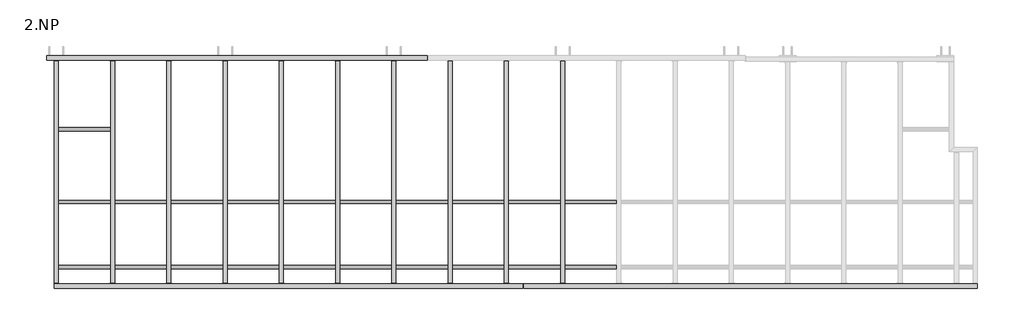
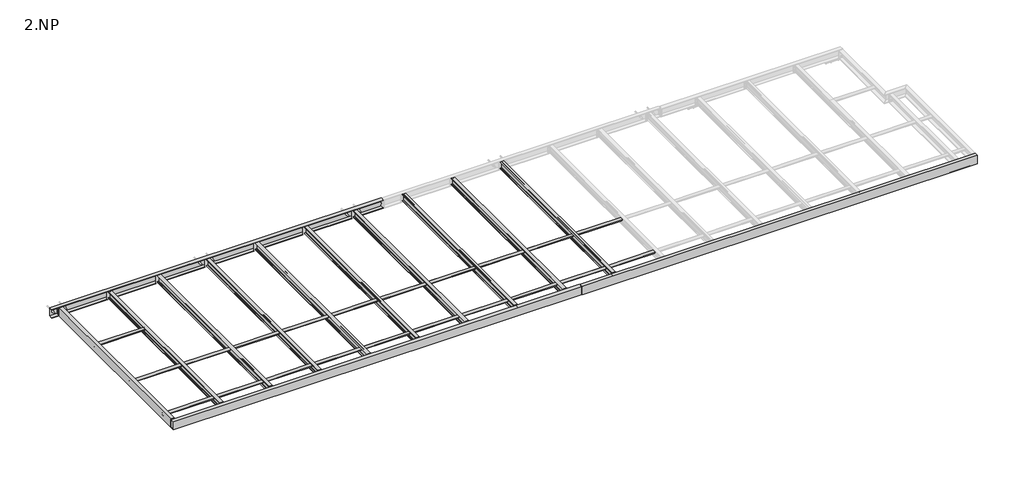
# One storey, part 1 of 18: 34 beams, 6 plates.
"""IFC4 building model written with IfcOpenShell, lengths in millimetres."""

from ifc_helpers import new_model, si_unit, point, frame, frame_2d, origin, place, context, project, spatial, polyline, circle_curve, trimmed, segment, composite_curve, outline, extrude, element, save

model = new_model("IFC4")

# Units and contexts
model_context = context("Model", 3, world=origin())
ifc_project = project(units=[si_unit("LENGTHUNIT", "METRE", prefix="MILLI")], contexts=[model_context])

# Site, building, storey
site = spatial("IfcSite", under=ifc_project)
building = spatial("IfcBuilding", under=site)
storey = spatial("IfcBuildingStorey", under=building, Name="2.NP", Elevation=3000.0)

# Beams
placement = place(None, origin())
element("IfcBeam", 1, ObjectType="CHS60.3*5", at=placement, inside=storey, context=model_context, shape_type="SweptSolid", body=[
    extrude(outline(composite_curve([segment(trimmed(circle_curve(frame_2d((1260.0, 3230.0)), 30.15), [point((1290.15, 3230.0))], [point((1229.85, 3230.0))], False, "CARTESIAN"), True, "CONTINUOUS"), segment(trimmed(circle_curve(frame_2d((1260.0, 3230.0)), 30.15), [point((1229.85, 3230.0))], [point((1290.15, 3230.0))], False, "CARTESIAN"), True, "CONTINUOUS")], self_intersect=False), holes=[composite_curve([segment(trimmed(circle_curve(frame_2d((1260.0, 3230.0)), 25.15), [point((1285.15, 3230.0))], [point((1234.85, 3230.0))], True, "CARTESIAN"), True, "CONTINUOUS"), segment(trimmed(circle_curve(frame_2d((1260.0, 3230.0)), 25.15), [point((1234.85, 3230.0))], [point((1285.15, 3230.0))], True, "CARTESIAN"), True, "CONTINUOUS")], self_intersect=False)]), frame((15.45, 0.0, 0.0), z_axis=(1.0, 0.0, 0.0), x_axis=(0.0, 1.0, 0.0)), (0.0, 0.0, 1.0), 1032.2),
])
element("IfcBeam", 2, ObjectType="CHS60.3*5", at=placement, inside=storey, context=model_context, shape_type="SweptSolid", body=[
    extrude(outline(composite_curve([segment(trimmed(circle_curve(frame_2d((1260.0, 3230.0)), 30.15), [point((1290.15, 3230.0))], [point((1229.85, 3230.0))], False, "CARTESIAN"), True, "CONTINUOUS"), segment(trimmed(circle_curve(frame_2d((1260.0, 3230.0)), 30.15), [point((1229.85, 3230.0))], [point((1290.15, 3230.0))], False, "CARTESIAN"), True, "CONTINUOUS")], self_intersect=False), holes=[composite_curve([segment(trimmed(circle_curve(frame_2d((1260.0, 3230.0)), 25.15), [point((1285.15, 3230.0))], [point((1234.85, 3230.0))], True, "CARTESIAN"), True, "CONTINUOUS"), segment(trimmed(circle_curve(frame_2d((1260.0, 3230.0)), 25.15), [point((1234.85, 3230.0))], [point((1285.15, 3230.0))], True, "CARTESIAN"), True, "CONTINUOUS")], self_intersect=False)]), frame((1052.35, 0.0, 0.0), z_axis=(1.0, 0.0, 0.0), x_axis=(0.0, 1.0, 0.0)), (0.0, 0.0, 1.0), 995.3),
])
element("IfcBeam", 3, ObjectType="CHS60.3*5", at=placement, inside=storey, context=model_context, shape_type="SweptSolid", body=[
    extrude(outline(composite_curve([segment(trimmed(circle_curve(frame_2d((1260.0, 3230.0)), 30.15), [point((1290.15, 3230.0))], [point((1229.85, 3230.0))], False, "CARTESIAN"), True, "CONTINUOUS"), segment(trimmed(circle_curve(frame_2d((1260.0, 3230.0)), 30.15), [point((1229.85, 3230.0))], [point((1290.15, 3230.0))], False, "CARTESIAN"), True, "CONTINUOUS")], self_intersect=False), holes=[composite_curve([segment(trimmed(circle_curve(frame_2d((1260.0, 3230.0)), 25.15), [point((1285.15, 3230.0))], [point((1234.85, 3230.0))], True, "CARTESIAN"), True, "CONTINUOUS"), segment(trimmed(circle_curve(frame_2d((1260.0, 3230.0)), 25.15), [point((1234.85, 3230.0))], [point((1285.15, 3230.0))], True, "CARTESIAN"), True, "CONTINUOUS")], self_intersect=False)]), frame((2052.35, 0.0, 0.0), z_axis=(1.0, 0.0, 0.0), x_axis=(0.0, 1.0, 0.0)), (0.0, 0.0, 1.0), 995.3),
])
element("IfcBeam", 4, ObjectType="CHS60.3*5", at=placement, inside=storey, context=model_context, shape_type="SweptSolid", body=[
    extrude(outline(composite_curve([segment(trimmed(circle_curve(frame_2d((1260.0, 3230.0)), 30.15), [point((1290.15, 3230.0))], [point((1229.85, 3230.0))], False, "CARTESIAN"), True, "CONTINUOUS"), segment(trimmed(circle_curve(frame_2d((1260.0, 3230.0)), 30.15), [point((1229.85, 3230.0))], [point((1290.15, 3230.0))], False, "CARTESIAN"), True, "CONTINUOUS")], self_intersect=False), holes=[composite_curve([segment(trimmed(circle_curve(frame_2d((1260.0, 3230.0)), 25.15), [point((1285.15, 3230.0))], [point((1234.85, 3230.0))], True, "CARTESIAN"), True, "CONTINUOUS"), segment(trimmed(circle_curve(frame_2d((1260.0, 3230.0)), 25.15), [point((1234.85, 3230.0))], [point((1285.15, 3230.0))], True, "CARTESIAN"), True, "CONTINUOUS")], self_intersect=False)]), frame((3052.35, 0.0, 0.0), z_axis=(1.0, 0.0, 0.0), x_axis=(0.0, 1.0, 0.0)), (0.0, 0.0, 1.0), 995.3),
])
element("IfcBeam", 5, ObjectType="CHS60.3*5", at=placement, inside=storey, context=model_context, shape_type="SweptSolid", body=[
    extrude(outline(composite_curve([segment(trimmed(circle_curve(frame_2d((1260.0, 3230.0)), 30.15), [point((1290.15, 3230.0))], [point((1229.85, 3230.0))], False, "CARTESIAN"), True, "CONTINUOUS"), segment(trimmed(circle_curve(frame_2d((1260.0, 3230.0)), 30.15), [point((1229.85, 3230.0))], [point((1290.15, 3230.0))], False, "CARTESIAN"), True, "CONTINUOUS")], self_intersect=False), holes=[composite_curve([segment(trimmed(circle_curve(frame_2d((1260.0, 3230.0)), 25.15), [point((1285.15, 3230.0))], [point((1234.85, 3230.0))], True, "CARTESIAN"), True, "CONTINUOUS"), segment(trimmed(circle_curve(frame_2d((1260.0, 3230.0)), 25.15), [point((1234.85, 3230.0))], [point((1285.15, 3230.0))], True, "CARTESIAN"), True, "CONTINUOUS")], self_intersect=False)]), frame((4052.35, 0.0, 0.0), z_axis=(1.0, 0.0, 0.0), x_axis=(0.0, 1.0, 0.0)), (0.0, 0.0, 1.0), 995.3),
])
element("IfcBeam", 6, ObjectType="CHS60.3*5", at=placement, inside=storey, context=model_context, shape_type="SweptSolid", body=[
    extrude(outline(composite_curve([segment(trimmed(circle_curve(frame_2d((1260.0, 3230.0)), 30.15), [point((1290.15, 3230.0))], [point((1229.85, 3230.0))], False, "CARTESIAN"), True, "CONTINUOUS"), segment(trimmed(circle_curve(frame_2d((1260.0, 3230.0)), 30.15), [point((1229.85, 3230.0))], [point((1290.15, 3230.0))], False, "CARTESIAN"), True, "CONTINUOUS")], self_intersect=False), holes=[composite_curve([segment(trimmed(circle_curve(frame_2d((1260.0, 3230.0)), 25.15), [point((1285.15, 3230.0))], [point((1234.85, 3230.0))], True, "CARTESIAN"), True, "CONTINUOUS"), segment(trimmed(circle_curve(frame_2d((1260.0, 3230.0)), 25.15), [point((1234.85, 3230.0))], [point((1285.15, 3230.0))], True, "CARTESIAN"), True, "CONTINUOUS")], self_intersect=False)]), frame((5052.35, 0.0, 0.0), z_axis=(1.0, 0.0, 0.0), x_axis=(0.0, 1.0, 0.0)), (0.0, 0.0, 1.0), 995.3),
])
element("IfcBeam", 7, ObjectType="CHS60.3*5", at=placement, inside=storey, context=model_context, shape_type="SweptSolid", body=[
    extrude(outline(composite_curve([segment(trimmed(circle_curve(frame_2d((1260.0, 3230.0)), 30.15), [point((1290.15, 3230.0))], [point((1229.85, 3230.0))], False, "CARTESIAN"), True, "CONTINUOUS"), segment(trimmed(circle_curve(frame_2d((1260.0, 3230.0)), 30.15), [point((1229.85, 3230.0))], [point((1290.15, 3230.0))], False, "CARTESIAN"), True, "CONTINUOUS")], self_intersect=False), holes=[composite_curve([segment(trimmed(circle_curve(frame_2d((1260.0, 3230.0)), 25.15), [point((1285.15, 3230.0))], [point((1234.85, 3230.0))], True, "CARTESIAN"), True, "CONTINUOUS"), segment(trimmed(circle_curve(frame_2d((1260.0, 3230.0)), 25.15), [point((1234.85, 3230.0))], [point((1285.15, 3230.0))], True, "CARTESIAN"), True, "CONTINUOUS")], self_intersect=False)]), frame((6052.35, 0.0, 0.0), z_axis=(1.0, 0.0, 0.0), x_axis=(0.0, 1.0, 0.0)), (0.0, 0.0, 1.0), 995.3),
])
element("IfcBeam", 8, ObjectType="CHS60.3*5", at=placement, inside=storey, context=model_context, shape_type="SweptSolid", body=[
    extrude(outline(composite_curve([segment(trimmed(circle_curve(frame_2d((1260.0, 3230.0)), 30.15), [point((1290.15, 3230.0))], [point((1229.85, 3230.0))], False, "CARTESIAN"), True, "CONTINUOUS"), segment(trimmed(circle_curve(frame_2d((1260.0, 3230.0)), 30.15), [point((1229.85, 3230.0))], [point((1290.15, 3230.0))], False, "CARTESIAN"), True, "CONTINUOUS")], self_intersect=False), holes=[composite_curve([segment(trimmed(circle_curve(frame_2d((1260.0, 3230.0)), 25.15), [point((1285.15, 3230.0))], [point((1234.85, 3230.0))], True, "CARTESIAN"), True, "CONTINUOUS"), segment(trimmed(circle_curve(frame_2d((1260.0, 3230.0)), 25.15), [point((1234.85, 3230.0))], [point((1285.15, 3230.0))], True, "CARTESIAN"), True, "CONTINUOUS")], self_intersect=False)]), frame((7052.35, 0.0, 0.0), z_axis=(1.0, 0.0, 0.0), x_axis=(0.0, 1.0, 0.0)), (0.0, 0.0, 1.0), 995.3),
])
element("IfcBeam", 9, ObjectType="CHS60.3*5", at=placement, inside=storey, context=model_context, shape_type="SweptSolid", body=[
    extrude(outline(composite_curve([segment(trimmed(circle_curve(frame_2d((1260.0, 3230.0)), 30.15), [point((1290.15, 3230.0))], [point((1229.85, 3230.0))], False, "CARTESIAN"), True, "CONTINUOUS"), segment(trimmed(circle_curve(frame_2d((1260.0, 3230.0)), 30.15), [point((1229.85, 3230.0))], [point((1290.15, 3230.0))], False, "CARTESIAN"), True, "CONTINUOUS")], self_intersect=False), holes=[composite_curve([segment(trimmed(circle_curve(frame_2d((1260.0, 3230.0)), 25.15), [point((1285.15, 3230.0))], [point((1234.85, 3230.0))], True, "CARTESIAN"), True, "CONTINUOUS"), segment(trimmed(circle_curve(frame_2d((1260.0, 3230.0)), 25.15), [point((1234.85, 3230.0))], [point((1285.15, 3230.0))], True, "CARTESIAN"), True, "CONTINUOUS")], self_intersect=False)]), frame((8052.35, 0.0, 0.0), z_axis=(1.0, 0.0, 0.0), x_axis=(0.0, 1.0, 0.0)), (0.0, 0.0, 1.0), 995.3),
])
element("IfcBeam", 10, ObjectType="CHS60.3*5", at=placement, inside=storey, context=model_context, shape_type="SweptSolid", body=[
    extrude(outline(composite_curve([segment(trimmed(circle_curve(frame_2d((1260.0, 3230.0)), 30.15), [point((1290.15, 3230.0))], [point((1229.85, 3230.0))], False, "CARTESIAN"), True, "CONTINUOUS"), segment(trimmed(circle_curve(frame_2d((1260.0, 3230.0)), 30.15), [point((1229.85, 3230.0))], [point((1290.15, 3230.0))], False, "CARTESIAN"), True, "CONTINUOUS")], self_intersect=False), holes=[composite_curve([segment(trimmed(circle_curve(frame_2d((1260.0, 3230.0)), 25.15), [point((1285.15, 3230.0))], [point((1234.85, 3230.0))], True, "CARTESIAN"), True, "CONTINUOUS"), segment(trimmed(circle_curve(frame_2d((1260.0, 3230.0)), 25.15), [point((1234.85, 3230.0))], [point((1285.15, 3230.0))], True, "CARTESIAN"), True, "CONTINUOUS")], self_intersect=False)]), frame((9052.35, 0.0, 0.0), z_axis=(1.0, 0.0, 0.0), x_axis=(0.0, 1.0, 0.0)), (0.0, 0.0, 1.0), 995.3),
])
element("IfcBeam", 11, ObjectType="CHS60.3*5", at=placement, inside=storey, context=model_context, shape_type="SweptSolid", body=[
    extrude(outline(composite_curve([segment(trimmed(circle_curve(frame_2d((100.0, 3230.0)), 30.15), [point((130.15, 3230.0))], [point((69.85, 3230.0))], False, "CARTESIAN"), True, "CONTINUOUS"), segment(trimmed(circle_curve(frame_2d((100.0, 3230.0)), 30.15), [point((69.85, 3230.0))], [point((130.15, 3230.0))], False, "CARTESIAN"), True, "CONTINUOUS")], self_intersect=False), holes=[composite_curve([segment(trimmed(circle_curve(frame_2d((100.0, 3230.0)), 25.15), [point((125.15, 3230.0))], [point((74.85, 3230.0))], True, "CARTESIAN"), True, "CONTINUOUS"), segment(trimmed(circle_curve(frame_2d((100.0, 3230.0)), 25.15), [point((74.85, 3230.0))], [point((125.15, 3230.0))], True, "CARTESIAN"), True, "CONTINUOUS")], self_intersect=False)]), frame((1052.35, 0.0, 0.0), z_axis=(1.0, 0.0, 0.0), x_axis=(0.0, 1.0, 0.0)), (0.0, 0.0, 1.0), 995.3),
])
element("IfcBeam", 12, ObjectType="CHS60.3*5", at=placement, inside=storey, context=model_context, shape_type="SweptSolid", body=[
    extrude(outline(composite_curve([segment(trimmed(circle_curve(frame_2d((100.0, 3230.0)), 30.15), [point((130.15, 3230.0))], [point((69.85, 3230.0))], False, "CARTESIAN"), True, "CONTINUOUS"), segment(trimmed(circle_curve(frame_2d((100.0, 3230.0)), 30.15), [point((69.85, 3230.0))], [point((130.15, 3230.0))], False, "CARTESIAN"), True, "CONTINUOUS")], self_intersect=False), holes=[composite_curve([segment(trimmed(circle_curve(frame_2d((100.0, 3230.0)), 25.15), [point((125.15, 3230.0))], [point((74.85, 3230.0))], True, "CARTESIAN"), True, "CONTINUOUS"), segment(trimmed(circle_curve(frame_2d((100.0, 3230.0)), 25.15), [point((74.85, 3230.0))], [point((125.15, 3230.0))], True, "CARTESIAN"), True, "CONTINUOUS")], self_intersect=False)]), frame((15.45, 0.0, 0.0), z_axis=(1.0, 0.0, 0.0), x_axis=(0.0, 1.0, 0.0)), (0.0, 0.0, 1.0), 1032.2),
])
element("IfcBeam", 13, ObjectType="CHS60.3*5", at=placement, inside=storey, context=model_context, shape_type="SweptSolid", body=[
    extrude(outline(composite_curve([segment(trimmed(circle_curve(frame_2d((100.0, 3230.0)), 30.15), [point((130.15, 3230.0))], [point((69.85, 3230.0))], False, "CARTESIAN"), True, "CONTINUOUS"), segment(trimmed(circle_curve(frame_2d((100.0, 3230.0)), 30.15), [point((69.85, 3230.0))], [point((130.15, 3230.0))], False, "CARTESIAN"), True, "CONTINUOUS")], self_intersect=False), holes=[composite_curve([segment(trimmed(circle_curve(frame_2d((100.0, 3230.0)), 25.15), [point((125.15, 3230.0))], [point((74.85, 3230.0))], True, "CARTESIAN"), True, "CONTINUOUS"), segment(trimmed(circle_curve(frame_2d((100.0, 3230.0)), 25.15), [point((74.85, 3230.0))], [point((125.15, 3230.0))], True, "CARTESIAN"), True, "CONTINUOUS")], self_intersect=False)]), frame((2052.35, 0.0, 0.0), z_axis=(1.0, 0.0, 0.0), x_axis=(0.0, 1.0, 0.0)), (0.0, 0.0, 1.0), 995.3),
])
element("IfcBeam", 14, ObjectType="CHS60.3*5", at=placement, inside=storey, context=model_context, shape_type="SweptSolid", body=[
    extrude(outline(composite_curve([segment(trimmed(circle_curve(frame_2d((100.0, 3230.0)), 30.15), [point((130.15, 3230.0))], [point((69.85, 3230.0))], False, "CARTESIAN"), True, "CONTINUOUS"), segment(trimmed(circle_curve(frame_2d((100.0, 3230.0)), 30.15), [point((69.85, 3230.0))], [point((130.15, 3230.0))], False, "CARTESIAN"), True, "CONTINUOUS")], self_intersect=False), holes=[composite_curve([segment(trimmed(circle_curve(frame_2d((100.0, 3230.0)), 25.15), [point((125.15, 3230.0))], [point((74.85, 3230.0))], True, "CARTESIAN"), True, "CONTINUOUS"), segment(trimmed(circle_curve(frame_2d((100.0, 3230.0)), 25.15), [point((74.85, 3230.0))], [point((125.15, 3230.0))], True, "CARTESIAN"), True, "CONTINUOUS")], self_intersect=False)]), frame((3052.35, 0.0, 0.0), z_axis=(1.0, 0.0, 0.0), x_axis=(0.0, 1.0, 0.0)), (0.0, 0.0, 1.0), 995.3),
])
element("IfcBeam", 15, ObjectType="CHS60.3*5", at=placement, inside=storey, context=model_context, shape_type="SweptSolid", body=[
    extrude(outline(composite_curve([segment(trimmed(circle_curve(frame_2d((100.0, 3230.0)), 30.15), [point((130.15, 3230.0))], [point((69.85, 3230.0))], False, "CARTESIAN"), True, "CONTINUOUS"), segment(trimmed(circle_curve(frame_2d((100.0, 3230.0)), 30.15), [point((69.85, 3230.0))], [point((130.15, 3230.0))], False, "CARTESIAN"), True, "CONTINUOUS")], self_intersect=False), holes=[composite_curve([segment(trimmed(circle_curve(frame_2d((100.0, 3230.0)), 25.15), [point((125.15, 3230.0))], [point((74.85, 3230.0))], True, "CARTESIAN"), True, "CONTINUOUS"), segment(trimmed(circle_curve(frame_2d((100.0, 3230.0)), 25.15), [point((74.85, 3230.0))], [point((125.15, 3230.0))], True, "CARTESIAN"), True, "CONTINUOUS")], self_intersect=False)]), frame((4052.35, 0.0, 0.0), z_axis=(1.0, 0.0, 0.0), x_axis=(0.0, 1.0, 0.0)), (0.0, 0.0, 1.0), 995.3),
])
element("IfcBeam", 16, ObjectType="CHS60.3*5", at=placement, inside=storey, context=model_context, shape_type="SweptSolid", body=[
    extrude(outline(composite_curve([segment(trimmed(circle_curve(frame_2d((100.0, 3230.0)), 30.15), [point((130.15, 3230.0))], [point((69.85, 3230.0))], False, "CARTESIAN"), True, "CONTINUOUS"), segment(trimmed(circle_curve(frame_2d((100.0, 3230.0)), 30.15), [point((69.85, 3230.0))], [point((130.15, 3230.0))], False, "CARTESIAN"), True, "CONTINUOUS")], self_intersect=False), holes=[composite_curve([segment(trimmed(circle_curve(frame_2d((100.0, 3230.0)), 25.15), [point((125.15, 3230.0))], [point((74.85, 3230.0))], True, "CARTESIAN"), True, "CONTINUOUS"), segment(trimmed(circle_curve(frame_2d((100.0, 3230.0)), 25.15), [point((74.85, 3230.0))], [point((125.15, 3230.0))], True, "CARTESIAN"), True, "CONTINUOUS")], self_intersect=False)]), frame((5052.35, 0.0, 0.0), z_axis=(1.0, 0.0, 0.0), x_axis=(0.0, 1.0, 0.0)), (0.0, 0.0, 1.0), 995.3),
])
element("IfcBeam", 17, ObjectType="CHS60.3*5", at=placement, inside=storey, context=model_context, shape_type="SweptSolid", body=[
    extrude(outline(composite_curve([segment(trimmed(circle_curve(frame_2d((100.0, 3230.0)), 30.15), [point((130.15, 3230.0))], [point((69.85, 3230.0))], False, "CARTESIAN"), True, "CONTINUOUS"), segment(trimmed(circle_curve(frame_2d((100.0, 3230.0)), 30.15), [point((69.85, 3230.0))], [point((130.15, 3230.0))], False, "CARTESIAN"), True, "CONTINUOUS")], self_intersect=False), holes=[composite_curve([segment(trimmed(circle_curve(frame_2d((100.0, 3230.0)), 25.15), [point((125.15, 3230.0))], [point((74.85, 3230.0))], True, "CARTESIAN"), True, "CONTINUOUS"), segment(trimmed(circle_curve(frame_2d((100.0, 3230.0)), 25.15), [point((74.85, 3230.0))], [point((125.15, 3230.0))], True, "CARTESIAN"), True, "CONTINUOUS")], self_intersect=False)]), frame((6052.35, 0.0, 0.0), z_axis=(1.0, 0.0, 0.0), x_axis=(0.0, 1.0, 0.0)), (0.0, 0.0, 1.0), 995.3),
])
element("IfcBeam", 18, ObjectType="CHS60.3*5", at=placement, inside=storey, context=model_context, shape_type="SweptSolid", body=[
    extrude(outline(composite_curve([segment(trimmed(circle_curve(frame_2d((100.0, 3230.0)), 30.15), [point((130.15, 3230.0))], [point((69.85, 3230.0))], False, "CARTESIAN"), True, "CONTINUOUS"), segment(trimmed(circle_curve(frame_2d((100.0, 3230.0)), 30.15), [point((69.85, 3230.0))], [point((130.15, 3230.0))], False, "CARTESIAN"), True, "CONTINUOUS")], self_intersect=False), holes=[composite_curve([segment(trimmed(circle_curve(frame_2d((100.0, 3230.0)), 25.15), [point((125.15, 3230.0))], [point((74.85, 3230.0))], True, "CARTESIAN"), True, "CONTINUOUS"), segment(trimmed(circle_curve(frame_2d((100.0, 3230.0)), 25.15), [point((74.85, 3230.0))], [point((125.15, 3230.0))], True, "CARTESIAN"), True, "CONTINUOUS")], self_intersect=False)]), frame((7052.35, 0.0, 0.0), z_axis=(1.0, 0.0, 0.0), x_axis=(0.0, 1.0, 0.0)), (0.0, 0.0, 1.0), 995.3),
])
element("IfcBeam", 19, ObjectType="CHS60.3*5", at=placement, inside=storey, context=model_context, shape_type="SweptSolid", body=[
    extrude(outline(composite_curve([segment(trimmed(circle_curve(frame_2d((100.0, 3230.0)), 30.15), [point((130.15, 3230.0))], [point((69.85, 3230.0))], False, "CARTESIAN"), True, "CONTINUOUS"), segment(trimmed(circle_curve(frame_2d((100.0, 3230.0)), 30.15), [point((69.85, 3230.0))], [point((130.15, 3230.0))], False, "CARTESIAN"), True, "CONTINUOUS")], self_intersect=False), holes=[composite_curve([segment(trimmed(circle_curve(frame_2d((100.0, 3230.0)), 25.15), [point((125.15, 3230.0))], [point((74.85, 3230.0))], True, "CARTESIAN"), True, "CONTINUOUS"), segment(trimmed(circle_curve(frame_2d((100.0, 3230.0)), 25.15), [point((74.85, 3230.0))], [point((125.15, 3230.0))], True, "CARTESIAN"), True, "CONTINUOUS")], self_intersect=False)]), frame((8052.35, 0.0, 0.0), z_axis=(1.0, 0.0, 0.0), x_axis=(0.0, 1.0, 0.0)), (0.0, 0.0, 1.0), 995.3),
])
element("IfcBeam", 20, ObjectType="CHS60.3*5", at=placement, inside=storey, context=model_context, shape_type="SweptSolid", body=[
    extrude(outline(composite_curve([segment(trimmed(circle_curve(frame_2d((100.0, 3230.0)), 30.15), [point((130.15, 3230.0))], [point((69.85, 3230.0))], False, "CARTESIAN"), True, "CONTINUOUS"), segment(trimmed(circle_curve(frame_2d((100.0, 3230.0)), 30.15), [point((69.85, 3230.0))], [point((130.15, 3230.0))], False, "CARTESIAN"), True, "CONTINUOUS")], self_intersect=False), holes=[composite_curve([segment(trimmed(circle_curve(frame_2d((100.0, 3230.0)), 25.15), [point((125.15, 3230.0))], [point((74.85, 3230.0))], True, "CARTESIAN"), True, "CONTINUOUS"), segment(trimmed(circle_curve(frame_2d((100.0, 3230.0)), 25.15), [point((74.85, 3230.0))], [point((125.15, 3230.0))], True, "CARTESIAN"), True, "CONTINUOUS")], self_intersect=False)]), frame((9052.35, 0.0, 0.0), z_axis=(1.0, 0.0, 0.0), x_axis=(0.0, 1.0, 0.0)), (0.0, 0.0, 1.0), 995.3),
])
element("IfcBeam", 21, ObjectType="CHS60.3*5", at=placement, inside=storey, context=model_context, shape_type="SweptSolid", body=[
    extrude(outline(composite_curve([segment(trimmed(circle_curve(frame_2d((2550.0, 3230.0)), 30.15), [point((2580.15, 3230.0))], [point((2519.85, 3230.0))], False, "CARTESIAN"), True, "CONTINUOUS"), segment(trimmed(circle_curve(frame_2d((2550.0, 3230.0)), 30.15), [point((2519.85, 3230.0))], [point((2580.15, 3230.0))], False, "CARTESIAN"), True, "CONTINUOUS")], self_intersect=False), holes=[composite_curve([segment(trimmed(circle_curve(frame_2d((2550.0, 3230.0)), 25.15), [point((2575.15, 3230.0))], [point((2524.85, 3230.0))], True, "CARTESIAN"), True, "CONTINUOUS"), segment(trimmed(circle_curve(frame_2d((2550.0, 3230.0)), 25.15), [point((2524.85, 3230.0))], [point((2575.15, 3230.0))], True, "CARTESIAN"), True, "CONTINUOUS")], self_intersect=False)]), frame((15.5, 0.0, 0.0), z_axis=(1.0, 0.0, 0.0), x_axis=(0.0, 1.0, 0.0)), (0.0, 0.0, 1.0), 1034.5),
])
element("IfcBeam", 22, ObjectType="IPE140", at=placement, inside=storey, context=model_context, shape_type="SweptSolid", body=[
    extrude(outline(composite_curve([segment(polyline([(3160.0, 3013.5), (3160.0, 3086.5), (3166.9000001, 3086.5), (3166.9000001, 3059.3499999)]), True, "CONTINUOUS"), segment(trimmed(circle_curve(frame_2d((3173.9000001, 3059.3499999)), 7.0), [point((3166.9000001, 3059.3499999))], [point((3173.9000001, 3052.3499999))], True, "CARTESIAN"), True, "CONTINUOUS"), segment(polyline([(3173.9000001, 3052.3499999), (3286.0999999, 3052.3499999)]), True, "CONTINUOUS"), segment(trimmed(circle_curve(frame_2d((3286.0999999, 3059.3499999)), 7.0), [point((3286.0999999, 3052.3499999))], [point((3293.0999999, 3059.3499999))], True, "CARTESIAN"), True, "CONTINUOUS"), segment(polyline([(3293.0999999, 3059.3499999), (3293.0999999, 3086.5), (3300.0, 3086.5), (3300.0, 3013.5), (3293.0999999, 3013.5), (3293.0999999, 3040.6500001)]), True, "CONTINUOUS"), segment(trimmed(circle_curve(frame_2d((3286.0999999, 3040.6500001)), 7.0), [point((3293.0999999, 3040.6500001))], [point((3286.0999999, 3047.6500001))], True, "CARTESIAN"), True, "CONTINUOUS"), segment(polyline([(3286.0999999, 3047.6500001), (3173.9000001, 3047.6500001)]), True, "CONTINUOUS"), segment(trimmed(circle_curve(frame_2d((3173.9000001, 3040.6500001)), 7.0), [point((3173.9000001, 3047.6500001))], [point((3166.9000001, 3040.6500001))], True, "CARTESIAN"), True, "CONTINUOUS"), segment(polyline([(3166.9000001, 3040.6500001), (3166.9000001, 3013.5), (3160.0, 3013.5)]), True, "CONTINUOUS")], self_intersect=False)), frame((0.0, -180.0, 0.0), z_axis=(0.0, 1.0, 0.0), x_axis=(0.0, 0.0, 1.0)), (0.0, 0.0, 1.0), 3947.0),
])
element("IfcBeam", 23, ObjectType="IPE140", at=placement, inside=storey, context=model_context, shape_type="SweptSolid", body=[
    extrude(outline(composite_curve([segment(polyline([(3160.0, 4013.5), (3160.0, 4086.5), (3166.9000001, 4086.5), (3166.9000001, 4059.3499999)]), True, "CONTINUOUS"), segment(trimmed(circle_curve(frame_2d((3173.9000001, 4059.3499999)), 7.0), [point((3166.9000001, 4059.3499999))], [point((3173.9000001, 4052.3499999))], True, "CARTESIAN"), True, "CONTINUOUS"), segment(polyline([(3173.9000001, 4052.3499999), (3286.0999999, 4052.3499999)]), True, "CONTINUOUS"), segment(trimmed(circle_curve(frame_2d((3286.0999999, 4059.3499999)), 7.0), [point((3286.0999999, 4052.3499999))], [point((3293.0999999, 4059.3499999))], True, "CARTESIAN"), True, "CONTINUOUS"), segment(polyline([(3293.0999999, 4059.3499999), (3293.0999999, 4086.5), (3300.0, 4086.5), (3300.0, 4013.5), (3293.0999999, 4013.5), (3293.0999999, 4040.6500001)]), True, "CONTINUOUS"), segment(trimmed(circle_curve(frame_2d((3286.0999999, 4040.6500001)), 7.0), [point((3293.0999999, 4040.6500001))], [point((3286.0999999, 4047.6500001))], True, "CARTESIAN"), True, "CONTINUOUS"), segment(polyline([(3286.0999999, 4047.6500001), (3173.9000001, 4047.6500001)]), True, "CONTINUOUS"), segment(trimmed(circle_curve(frame_2d((3173.9000001, 4040.6500001)), 7.0), [point((3173.9000001, 4047.6500001))], [point((3166.9000001, 4040.6500001))], True, "CARTESIAN"), True, "CONTINUOUS"), segment(polyline([(3166.9000001, 4040.6500001), (3166.9000001, 4013.5), (3160.0, 4013.5)]), True, "CONTINUOUS")], self_intersect=False)), frame((0.0, -180.0, 0.0), z_axis=(0.0, 1.0, 0.0), x_axis=(0.0, 0.0, 1.0)), (0.0, 0.0, 1.0), 3947.0),
])
element("IfcBeam", 24, ObjectType="IPE140", at=placement, inside=storey, context=model_context, shape_type="SweptSolid", body=[
    extrude(outline(composite_curve([segment(polyline([(3160.0, 5013.5), (3160.0, 5086.5), (3166.9000001, 5086.5), (3166.9000001, 5059.3499999)]), True, "CONTINUOUS"), segment(trimmed(circle_curve(frame_2d((3173.9000001, 5059.3499999)), 7.0), [point((3166.9000001, 5059.3499999))], [point((3173.9000001, 5052.3499999))], True, "CARTESIAN"), True, "CONTINUOUS"), segment(polyline([(3173.9000001, 5052.3499999), (3286.0999999, 5052.3499999)]), True, "CONTINUOUS"), segment(trimmed(circle_curve(frame_2d((3286.0999999, 5059.3499999)), 7.0), [point((3286.0999999, 5052.3499999))], [point((3293.0999999, 5059.3499999))], True, "CARTESIAN"), True, "CONTINUOUS"), segment(polyline([(3293.0999999, 5059.3499999), (3293.0999999, 5086.5), (3300.0, 5086.5), (3300.0, 5013.5), (3293.0999999, 5013.5), (3293.0999999, 5040.6500001)]), True, "CONTINUOUS"), segment(trimmed(circle_curve(frame_2d((3286.0999999, 5040.6500001)), 7.0), [point((3293.0999999, 5040.6500001))], [point((3286.0999999, 5047.6500001))], True, "CARTESIAN"), True, "CONTINUOUS"), segment(polyline([(3286.0999999, 5047.6500001), (3173.9000001, 5047.6500001)]), True, "CONTINUOUS"), segment(trimmed(circle_curve(frame_2d((3173.9000001, 5040.6500001)), 7.0), [point((3173.9000001, 5047.6500001))], [point((3166.9000001, 5040.6500001))], True, "CARTESIAN"), True, "CONTINUOUS"), segment(polyline([(3166.9000001, 5040.6500001), (3166.9000001, 5013.5), (3160.0, 5013.5)]), True, "CONTINUOUS")], self_intersect=False)), frame((0.0, -180.0, 0.0), z_axis=(0.0, 1.0, 0.0), x_axis=(0.0, 0.0, 1.0)), (0.0, 0.0, 1.0), 3947.0),
])
element("IfcBeam", 25, ObjectType="IPE140", at=placement, inside=storey, context=model_context, shape_type="SweptSolid", body=[
    extrude(outline(composite_curve([segment(polyline([(3160.0, 6013.5), (3160.0, 6086.5), (3166.9000001, 6086.5), (3166.9000001, 6059.3499999)]), True, "CONTINUOUS"), segment(trimmed(circle_curve(frame_2d((3173.9000001, 6059.3499999)), 7.0), [point((3166.9000001, 6059.3499999))], [point((3173.9000001, 6052.3499999))], True, "CARTESIAN"), True, "CONTINUOUS"), segment(polyline([(3173.9000001, 6052.3499999), (3286.0999999, 6052.3499999)]), True, "CONTINUOUS"), segment(trimmed(circle_curve(frame_2d((3286.0999999, 6059.3499999)), 7.0), [point((3286.0999999, 6052.3499999))], [point((3293.0999999, 6059.3499999))], True, "CARTESIAN"), True, "CONTINUOUS"), segment(polyline([(3293.0999999, 6059.3499999), (3293.0999999, 6086.5), (3300.0, 6086.5), (3300.0, 6013.5), (3293.0999999, 6013.5), (3293.0999999, 6040.6500001)]), True, "CONTINUOUS"), segment(trimmed(circle_curve(frame_2d((3286.0999999, 6040.6500001)), 7.0), [point((3293.0999999, 6040.6500001))], [point((3286.0999999, 6047.6500001))], True, "CARTESIAN"), True, "CONTINUOUS"), segment(polyline([(3286.0999999, 6047.6500001), (3173.9000001, 6047.6500001)]), True, "CONTINUOUS"), segment(trimmed(circle_curve(frame_2d((3173.9000001, 6040.6500001)), 7.0), [point((3173.9000001, 6047.6500001))], [point((3166.9000001, 6040.6500001))], True, "CARTESIAN"), True, "CONTINUOUS"), segment(polyline([(3166.9000001, 6040.6500001), (3166.9000001, 6013.5), (3160.0, 6013.5)]), True, "CONTINUOUS")], self_intersect=False)), frame((0.0, -180.0, 0.0), z_axis=(0.0, 1.0, 0.0), x_axis=(0.0, 0.0, 1.0)), (0.0, 0.0, 1.0), 3947.0),
])
element("IfcBeam", 26, ObjectType="IPE140", at=placement, inside=storey, context=model_context, shape_type="SweptSolid", body=[
    extrude(outline(composite_curve([segment(polyline([(3160.0, 7013.5), (3160.0, 7086.5), (3166.9000001, 7086.5), (3166.9000001, 7059.3499999)]), True, "CONTINUOUS"), segment(trimmed(circle_curve(frame_2d((3173.9000001, 7059.3499999)), 7.0), [point((3166.9000001, 7059.3499999))], [point((3173.9000001, 7052.3499999))], True, "CARTESIAN"), True, "CONTINUOUS"), segment(polyline([(3173.9000001, 7052.3499999), (3286.0999999, 7052.3499999)]), True, "CONTINUOUS"), segment(trimmed(circle_curve(frame_2d((3286.0999999, 7059.3499999)), 7.0), [point((3286.0999999, 7052.3499999))], [point((3293.0999999, 7059.3499999))], True, "CARTESIAN"), True, "CONTINUOUS"), segment(polyline([(3293.0999999, 7059.3499999), (3293.0999999, 7086.5), (3300.0, 7086.5), (3300.0, 7013.5), (3293.0999999, 7013.5), (3293.0999999, 7040.6500001)]), True, "CONTINUOUS"), segment(trimmed(circle_curve(frame_2d((3286.0999999, 7040.6500001)), 7.0), [point((3293.0999999, 7040.6500001))], [point((3286.0999999, 7047.6500001))], True, "CARTESIAN"), True, "CONTINUOUS"), segment(polyline([(3286.0999999, 7047.6500001), (3173.9000001, 7047.6500001)]), True, "CONTINUOUS"), segment(trimmed(circle_curve(frame_2d((3173.9000001, 7040.6500001)), 7.0), [point((3173.9000001, 7047.6500001))], [point((3166.9000001, 7040.6500001))], True, "CARTESIAN"), True, "CONTINUOUS"), segment(polyline([(3166.9000001, 7040.6500001), (3166.9000001, 7013.5), (3160.0, 7013.5)]), True, "CONTINUOUS")], self_intersect=False)), frame((0.0, -180.0, 0.0), z_axis=(0.0, 1.0, 0.0), x_axis=(0.0, 0.0, 1.0)), (0.0, 0.0, 1.0), 3947.0),
])
element("IfcBeam", 27, ObjectType="IPE140", at=placement, inside=storey, context=model_context, shape_type="SweptSolid", body=[
    extrude(outline(composite_curve([segment(polyline([(3160.0, 8013.5), (3160.0, 8086.5), (3166.9000001, 8086.5), (3166.9000001, 8059.3499999)]), True, "CONTINUOUS"), segment(trimmed(circle_curve(frame_2d((3173.9000001, 8059.3499999)), 7.0), [point((3166.9000001, 8059.3499999))], [point((3173.9000001, 8052.3499999))], True, "CARTESIAN"), True, "CONTINUOUS"), segment(polyline([(3173.9000001, 8052.3499999), (3286.0999999, 8052.3499999)]), True, "CONTINUOUS"), segment(trimmed(circle_curve(frame_2d((3286.0999999, 8059.3499999)), 7.0), [point((3286.0999999, 8052.3499999))], [point((3293.0999999, 8059.3499999))], True, "CARTESIAN"), True, "CONTINUOUS"), segment(polyline([(3293.0999999, 8059.3499999), (3293.0999999, 8086.5), (3300.0, 8086.5), (3300.0, 8013.5), (3293.0999999, 8013.5), (3293.0999999, 8040.6500001)]), True, "CONTINUOUS"), segment(trimmed(circle_curve(frame_2d((3286.0999999, 8040.6500001)), 7.0), [point((3293.0999999, 8040.6500001))], [point((3286.0999999, 8047.6500001))], True, "CARTESIAN"), True, "CONTINUOUS"), segment(polyline([(3286.0999999, 8047.6500001), (3173.9000001, 8047.6500001)]), True, "CONTINUOUS"), segment(trimmed(circle_curve(frame_2d((3173.9000001, 8040.6500001)), 7.0), [point((3173.9000001, 8047.6500001))], [point((3166.9000001, 8040.6500001))], True, "CARTESIAN"), True, "CONTINUOUS"), segment(polyline([(3166.9000001, 8040.6500001), (3166.9000001, 8013.5), (3160.0, 8013.5)]), True, "CONTINUOUS")], self_intersect=False)), frame((0.0, -180.0, 0.0), z_axis=(0.0, 1.0, 0.0), x_axis=(0.0, 0.0, 1.0)), (0.0, 0.0, 1.0), 3947.0),
])
element("IfcBeam", 28, ObjectType="IPE140", at=placement, inside=storey, context=model_context, shape_type="SweptSolid", body=[
    extrude(outline(composite_curve([segment(polyline([(3160.0, 9013.5), (3160.0, 9086.5), (3166.9000001, 9086.5), (3166.9000001, 9059.3499999)]), True, "CONTINUOUS"), segment(trimmed(circle_curve(frame_2d((3173.9000001, 9059.3499999)), 7.0), [point((3166.9000001, 9059.3499999))], [point((3173.9000001, 9052.3499999))], True, "CARTESIAN"), True, "CONTINUOUS"), segment(polyline([(3173.9000001, 9052.3499999), (3286.0999999, 9052.3499999)]), True, "CONTINUOUS"), segment(trimmed(circle_curve(frame_2d((3286.0999999, 9059.3499999)), 7.0), [point((3286.0999999, 9052.3499999))], [point((3293.0999999, 9059.3499999))], True, "CARTESIAN"), True, "CONTINUOUS"), segment(polyline([(3293.0999999, 9059.3499999), (3293.0999999, 9086.5), (3300.0, 9086.5), (3300.0, 9013.5), (3293.0999999, 9013.5), (3293.0999999, 9040.6500001)]), True, "CONTINUOUS"), segment(trimmed(circle_curve(frame_2d((3286.0999999, 9040.6500001)), 7.0), [point((3293.0999999, 9040.6500001))], [point((3286.0999999, 9047.6500001))], True, "CARTESIAN"), True, "CONTINUOUS"), segment(polyline([(3286.0999999, 9047.6500001), (3173.9000001, 9047.6500001)]), True, "CONTINUOUS"), segment(trimmed(circle_curve(frame_2d((3173.9000001, 9040.6500001)), 7.0), [point((3173.9000001, 9047.6500001))], [point((3166.9000001, 9040.6500001))], True, "CARTESIAN"), True, "CONTINUOUS"), segment(polyline([(3166.9000001, 9040.6500001), (3166.9000001, 9013.5), (3160.0, 9013.5)]), True, "CONTINUOUS")], self_intersect=False)), frame((0.0, -180.0, 0.0), z_axis=(0.0, 1.0, 0.0), x_axis=(0.0, 0.0, 1.0)), (0.0, 0.0, 1.0), 3947.0),
])
element("IfcBeam", 29, ObjectType="IPE140", at=placement, inside=storey, context=model_context, shape_type="SweptSolid", body=[
    extrude(outline(composite_curve([segment(polyline([(3160.0, 2013.5), (3160.0, 2086.5), (3166.9000001, 2086.5), (3166.9000001, 2059.3499999)]), True, "CONTINUOUS"), segment(trimmed(circle_curve(frame_2d((3173.9000001, 2059.3499999)), 7.0), [point((3166.9000001, 2059.3499999))], [point((3173.9000001, 2052.3499999))], True, "CARTESIAN"), True, "CONTINUOUS"), segment(polyline([(3173.9000001, 2052.3499999), (3286.0999999, 2052.3499999)]), True, "CONTINUOUS"), segment(trimmed(circle_curve(frame_2d((3286.0999999, 2059.3499999)), 7.0), [point((3286.0999999, 2052.3499999))], [point((3293.0999999, 2059.3499999))], True, "CARTESIAN"), True, "CONTINUOUS"), segment(polyline([(3293.0999999, 2059.3499999), (3293.0999999, 2086.5), (3300.0, 2086.5), (3300.0, 2013.5), (3293.0999999, 2013.5), (3293.0999999, 2040.6500001)]), True, "CONTINUOUS"), segment(trimmed(circle_curve(frame_2d((3286.0999999, 2040.6500001)), 7.0), [point((3293.0999999, 2040.6500001))], [point((3286.0999999, 2047.6500001))], True, "CARTESIAN"), True, "CONTINUOUS"), segment(polyline([(3286.0999999, 2047.6500001), (3173.9000001, 2047.6500001)]), True, "CONTINUOUS"), segment(trimmed(circle_curve(frame_2d((3173.9000001, 2040.6500001)), 7.0), [point((3173.9000001, 2047.6500001))], [point((3166.9000001, 2040.6500001))], True, "CARTESIAN"), True, "CONTINUOUS"), segment(polyline([(3166.9000001, 2040.6500001), (3166.9000001, 2013.5), (3160.0, 2013.5)]), True, "CONTINUOUS")], self_intersect=False)), frame((0.0, -180.0, 0.0), z_axis=(0.0, 1.0, 0.0), x_axis=(0.0, 0.0, 1.0)), (0.0, 0.0, 1.0), 3947.0),
])
element("IfcBeam", 30, ObjectType="IPE140", at=placement, inside=storey, context=model_context, shape_type="SweptSolid", body=[
    extrude(outline(composite_curve([segment(polyline([(3160.0, 1013.5), (3160.0, 1086.5), (3166.9000001, 1086.5), (3166.9000001, 1059.3499999)]), True, "CONTINUOUS"), segment(trimmed(circle_curve(frame_2d((3173.9000001, 1059.3499999)), 7.0), [point((3166.9000001, 1059.3499999))], [point((3173.9000001, 1052.3499999))], True, "CARTESIAN"), True, "CONTINUOUS"), segment(polyline([(3173.9000001, 1052.3499999), (3286.0999999, 1052.3499999)]), True, "CONTINUOUS"), segment(trimmed(circle_curve(frame_2d((3286.0999999, 1059.3499999)), 7.0), [point((3286.0999999, 1052.3499999))], [point((3293.0999999, 1059.3499999))], True, "CARTESIAN"), True, "CONTINUOUS"), segment(polyline([(3293.0999999, 1059.3499999), (3293.0999999, 1086.5), (3300.0, 1086.5), (3300.0, 1013.5), (3293.0999999, 1013.5), (3293.0999999, 1040.6500001)]), True, "CONTINUOUS"), segment(trimmed(circle_curve(frame_2d((3286.0999999, 1040.6500001)), 7.0), [point((3293.0999999, 1040.6500001))], [point((3286.0999999, 1047.6500001))], True, "CARTESIAN"), True, "CONTINUOUS"), segment(polyline([(3286.0999999, 1047.6500001), (3173.9000001, 1047.6500001)]), True, "CONTINUOUS"), segment(trimmed(circle_curve(frame_2d((3173.9000001, 1040.6500001)), 7.0), [point((3173.9000001, 1047.6500001))], [point((3166.9000001, 1040.6500001))], True, "CARTESIAN"), True, "CONTINUOUS"), segment(polyline([(3166.9000001, 1040.6500001), (3166.9000001, 1013.5), (3160.0, 1013.5)]), True, "CONTINUOUS")], self_intersect=False)), frame((0.0, -180.0, 0.0), z_axis=(0.0, 1.0, 0.0), x_axis=(0.0, 0.0, 1.0)), (0.0, 0.0, 1.0), 3947.0),
])
element("IfcBeam", 31, ObjectType="UPE180", at=placement, inside=storey, context=model_context, shape_type="SweptSolid", body=[
    extrude(outline(polyline([(-275.0, 3120.0), (-275.0, 3300.0), (-200.0, 3300.0), (-200.0, 3289.5), (-269.5, 3289.5), (-269.5, 3130.5), (-200.0, 3130.5), (-200.0, 3120.0), (-275.0, 3120.0)])), frame((10.0, 0.0, 0.0), z_axis=(1.0, 0.0, 0.0), x_axis=(0.0, 1.0, 0.0)), (0.0, 0.0, 1.0), 8330.0),
])
element("IfcBeam", 32, ObjectType="UPE180", at=placement, inside=storey, context=model_context, shape_type="SweptSolid", body=[
    extrude(outline(polyline([(3860.0, 3300.0), (3860.0, 3120.0), (3785.0, 3120.0), (3785.0, 3130.5), (3854.5, 3130.5), (3854.5, 3289.5), (3785.0, 3289.5), (3785.0, 3300.0), (3860.0, 3300.0)])), frame((-125.0, 0.0, 0.0), z_axis=(1.0, 0.0, 0.0), x_axis=(0.0, 1.0, 0.0)), (0.0, 0.0, 1.0), 6765.0),
])
element("IfcBeam", 33, ObjectType="UPE180", at=placement, inside=storey, context=model_context, shape_type="SweptSolid", body=[
    extrude(outline(polyline([(3120.0, 10.0), (3120.0, 85.0), (3130.5, 85.0), (3130.5, 15.5), (3289.5, 15.5), (3289.5, 85.0), (3300.0, 85.0), (3300.0, 10.0), (3120.0, 10.0)])), frame((0.0, -180.0, 0.0), z_axis=(0.0, 1.0, 0.0), x_axis=(0.0, 0.0, 1.0)), (0.0, 0.0, 1.0), 3945.0),
])
element("IfcBeam", 34, ObjectType="UPE180", at=placement, inside=storey, context=model_context, shape_type="SweptSolid", body=[
    extrude(outline(polyline([(-275.0, 3120.0), (-275.0, 3300.0), (-200.0, 3300.0), (-200.0, 3289.5), (-269.5, 3289.5), (-269.5, 3130.5), (-200.0, 3130.5), (-200.0, 3120.0), (-275.0, 3120.0)])), frame((8360.0, 0.0, 0.0), z_axis=(1.0, 0.0, 0.0), x_axis=(0.0, 1.0, 0.0)), (0.0, 0.0, 1.0), 8065.0),
])

# Plates
element("IfcPlate", 35, ObjectType="PL10*75", at=placement, inside=storey, context=model_context, shape_type="SweptSolid", body=[
    extrude(outline(polyline([(85.0, -190.0), (10.0, -190.0), (10.0, -180.0), (85.0, -180.0), (85.0, -190.0)])), frame((0.0, 0.0, 3130.0), z_axis=(0.0, 0.0, 1.0), x_axis=(1.0, 0.0, 0.0)), (0.0, 0.0, 1.0), 160.0),
])
element("IfcPlate", 36, ObjectType="PL10*75", at=placement, inside=storey, context=model_context, shape_type="SweptSolid", body=[
    extrude(outline(polyline([(85.0, 3775.0), (10.0, 3775.0), (10.0, 3785.0), (85.0, 3785.0), (85.0, 3775.0)])), frame((0.0, 0.0, 3130.0), z_axis=(0.0, 0.0, 1.0), x_axis=(1.0, 0.0, 0.0)), (0.0, 0.0, 1.0), 160.0),
])
element("IfcPlate", 37, ObjectType="PL10*75", at=placement, inside=storey, context=model_context, shape_type="SweptSolid", body=[
    extrude(outline(polyline([(85.0, 3765.0), (10.0, 3765.0), (10.0, 3775.0), (85.0, 3775.0), (85.0, 3765.0)])), frame((0.0, 0.0, 3130.0), z_axis=(0.0, 0.0, 1.0), x_axis=(1.0, 0.0, 0.0)), (0.0, 0.0, 1.0), 160.0),
])
element("IfcPlate", 38, ObjectType="PL8*70", at=placement, inside=storey, context=model_context, shape_type="SweptSolid", body=[
    extrude(outline(composite_curve([segment(polyline([(3785.0, 3289.5), (3834.5, 3289.5)]), True, "CONTINUOUS"), segment(trimmed(circle_curve(frame_2d((3854.5, 3289.5)), 20.0), [point((3834.5, 3289.5))], [point((3854.5, 3269.5))], True, "CARTESIAN"), True, "CONTINUOUS"), segment(polyline([(3854.5, 3269.5), (3854.5, 3150.5)]), True, "CONTINUOUS"), segment(trimmed(circle_curve(frame_2d((3854.5, 3130.5)), 20.0), [point((3854.5, 3150.5))], [point((3834.5, 3130.5))], True, "CARTESIAN"), True, "CONTINUOUS"), segment(polyline([(3834.5, 3130.5), (3785.0, 3130.5), (3785.0, 3289.5)]), True, "CONTINUOUS")], self_intersect=False)), frame((15.5, 0.0, 0.0), z_axis=(1.0, 0.0, 0.0), x_axis=(0.0, 1.0, 0.0)), (0.0, 0.0, 1.0), 8.0),
])
element("IfcPlate", 39, ObjectType="PL10*70", at=placement, inside=storey, context=model_context, shape_type="SweptSolid", body=[
    extrude(outline(polyline([(8350.0, -200.0), (8350.0, -270.0), (8340.0, -270.0), (8340.0, -200.0), (8350.0, -200.0)])), frame((0.0, 0.0, 3130.5), z_axis=(0.0, 0.0, 1.0), x_axis=(1.0, 0.0, 0.0)), (0.0, 0.0, 1.0), 159.0),
])
element("IfcPlate", 40, ObjectType="PL10*70", at=placement, inside=storey, context=model_context, shape_type="SweptSolid", body=[
    extrude(outline(polyline([(8360.0, -200.0), (8360.0, -270.0), (8350.0, -270.0), (8350.0, -200.0), (8360.0, -200.0)])), frame((0.0, 0.0, 3130.5), z_axis=(0.0, 0.0, 1.0), x_axis=(1.0, 0.0, 0.0)), (0.0, 0.0, 1.0), 159.0),
])

save(model, "model.ifc")
